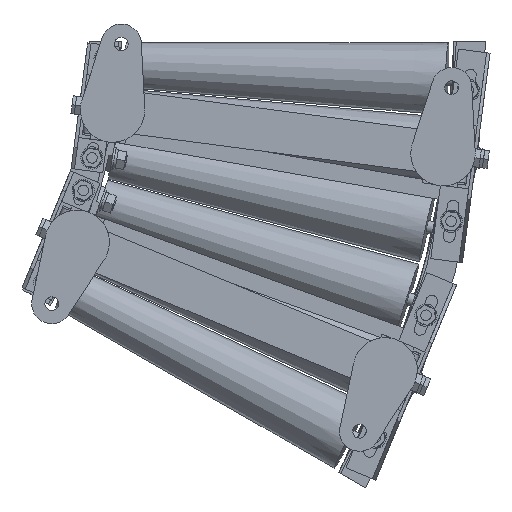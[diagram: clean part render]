
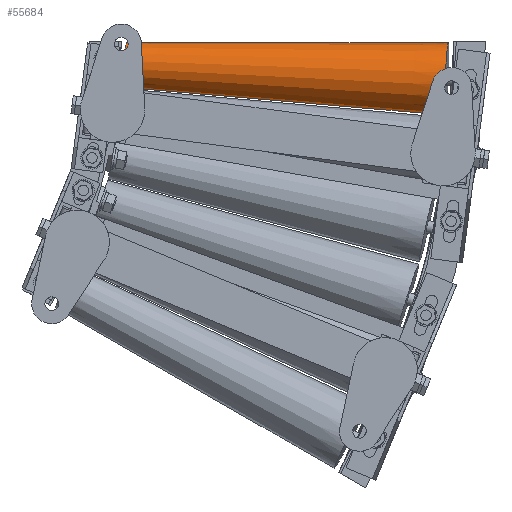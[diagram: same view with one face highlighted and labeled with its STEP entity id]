
A CAD part, front view. The second image highlights one B-rep face of the part: STEP entity #55684.
In plain terms, the highlighted conical face has half-angle 2.424 degrees and reference radius 34.25 mm.
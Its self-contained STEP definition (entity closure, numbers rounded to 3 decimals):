
#1831 = CARTESIAN_POINT ( 'NONE',  ( 809.702, -34.219, -1.07 ) ) ;
#3686 = AXIS2_PLACEMENT_3D ( 'NONE', #30405, #78693, #44292 ) ;
#6434 = VECTOR ( 'NONE', #7187, 1000. ) ;
#6767 = ORIENTED_EDGE ( 'NONE', *, *, #48112, .T. ) ;
#7187 = DIRECTION ( 'NONE',  ( 0.995, -0.042, -0.086 ) ) ;
#10308 = LINE ( 'NONE', #1831, #74153 ) ;
#11563 = EDGE_CURVE ( 'NONE', #70743, #49629, #10308, .T. ) ;
#16831 = EDGE_CURVE ( 'NONE', #80988, #49629, #22628, .T. ) ;
#16946 = ORIENTED_EDGE ( 'NONE', *, *, #16831, .T. ) ;
#19382 = DIRECTION ( 'NONE',  ( 0.044, 0., 0.999 ) ) ;
#22628 = CIRCLE ( 'NONE', #53039, 34.25 ) ;
#24805 = DIRECTION ( 'NONE',  ( 0.999, -0.042, -0.001 ) ) ;
#24810 = LINE ( 'NONE', #49215, #6434 ) ;
#25449 = DIRECTION ( 'NONE',  ( -0.998, 0.042, 0.044 ) ) ;
#29015 = EDGE_LOOP ( 'NONE', ( #76744, #56974, #6767, #16946 ) ) ;
#30405 = CARTESIAN_POINT ( 'NONE',  ( 808.209, -34.219, -35.287 ) ) ;
#33462 = CONICAL_SURFACE ( 'NONE', #3686, 34.25, 0.042 ) ;
#36568 = CARTESIAN_POINT ( 'NONE',  ( 806.715, -34.219, -69.505 ) ) ;
#39383 = DIRECTION ( 'NONE',  ( 0.044, 0., 0.999 ) ) ;
#39387 = CARTESIAN_POINT ( 'NONE',  ( 504.044, -21.331, -22.007 ) ) ;
#40727 = CIRCLE ( 'NONE', #77027, 21.35 ) ;
#44292 = DIRECTION ( 'NONE',  ( -0.044, 0., -0.999 ) ) ;
#48112 = EDGE_CURVE ( 'NONE', #73943, #80988, #24810, .T. ) ;
#49094 = EDGE_CURVE ( 'NONE', #73943, #70743, #40727, .T. ) ;
#49215 = CARTESIAN_POINT ( 'NONE',  ( 806.715, -34.219, -69.505 ) ) ;
#49629 = VERTEX_POINT ( 'NONE', #79421 ) ;
#52114 = CARTESIAN_POINT ( 'NONE',  ( 504.975, -21.331, -0.677 ) ) ;
#53039 = AXIS2_PLACEMENT_3D ( 'NONE', #74710, #25449, #39383 ) ;
#54169 = DIRECTION ( 'NONE',  ( -0.998, 0.042, 0.044 ) ) ;
#55684 = ADVANCED_FACE ( 'NONE', ( #75596 ), #33462, .T. ) ;
#56974 = ORIENTED_EDGE ( 'NONE', *, *, #49094, .F. ) ;
#70743 = VERTEX_POINT ( 'NONE', #52114 ) ;
#73943 = VERTEX_POINT ( 'NONE', #79932 ) ;
#74153 = VECTOR ( 'NONE', #24805, 1000. ) ;
#74710 = CARTESIAN_POINT ( 'NONE',  ( 808.209, -34.219, -35.287 ) ) ;
#75596 = FACE_OUTER_BOUND ( 'NONE', #29015, .T. ) ;
#76744 = ORIENTED_EDGE ( 'NONE', *, *, #11563, .F. ) ;
#77027 = AXIS2_PLACEMENT_3D ( 'NONE', #39387, #54169, #19382 ) ;
#78693 = DIRECTION ( 'NONE',  ( 0.998, -0.042, -0.044 ) ) ;
#79421 = CARTESIAN_POINT ( 'NONE',  ( 809.702, -34.219, -1.07 ) ) ;
#79932 = CARTESIAN_POINT ( 'NONE',  ( 503.113, -21.331, -43.337 ) ) ;
#80988 = VERTEX_POINT ( 'NONE', #36568 ) ;
